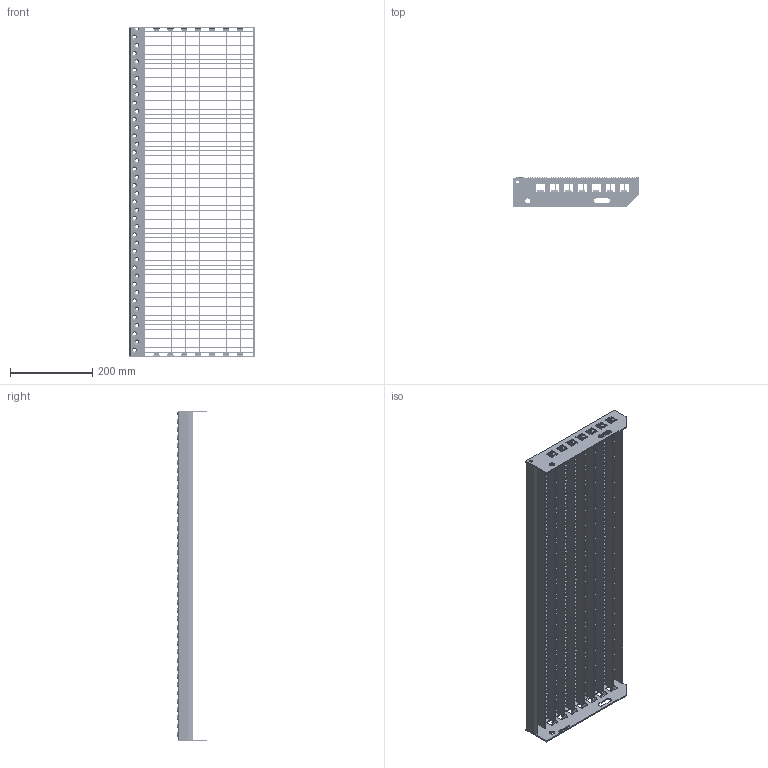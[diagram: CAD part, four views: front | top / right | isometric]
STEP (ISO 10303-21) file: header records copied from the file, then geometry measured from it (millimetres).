
FILE_DESCRIPTION(/* description */ ('','CAx-IF Rec.Pracs.---Representation and Presentation of Product Manufacturing Information (PMI)---3.8---2014-02-18'),/* implementation_level */ '2;1');
FILE_NAME(/* name */ 'C:\Users\phaverkotte\Desktop\Lager STEP\P-Stufen\PX42 230-33 11-2\PX42 230-33 11-2 800mm x 305mm.stp',/* time_stamp */ '2018-03-24T10:52:18+01:00',/* author */ ('phaverkotte'),/* organization */ (''),/* preprocessor_version */ 'ST-DEVELOPER v16.13',/* originating_system */ 'Autodesk Inventor 2018',/* authorisation */ '');
FILE_SCHEMA (('AP242_MANAGED_MODEL_BASED_3D_ENGINEERING_MIM_LF { 1 0 10303 442 1 1 4 }'));
Length unit declared in the file: millimetre
Products named in the file (8): Schodišťový stupeň přím
ý lisovaný; Seitenplatte ausgeklinkt links; Seitenplatte 240 ausgeklinkt extern rechts; Schod nášlap; P Rošt schodu; Querstab; P Nosný pás; Hinteres Flach
Assembly tree (84 placements, depth 3):
  Schodišťový stupeň přím
ý lisovaný
    Seitenplatte ausgeklinkt links
    Seitenplatte 240 ausgeklinkt extern rechts
    Schod nášlap
    P Rošt schodu
      Querstab  x71
      P Nosný pás  x8
      Hinteres Flach
Bounding box: 303.64 x 72.75 x 800 mm (x, y, z)
Volume: 922757.8 mm3; surface area: 1047560.6 mm2
Topology: 83 solids, 83 shells, 16845 faces, 49864 edges, 33202 vertices
Faces by surface type: plane 16505, cylinder 152, cone 120, torus 40, bspline 28
Full cylindrical faces by diameter (mm): 8 x2, 13 x2
Entity records: 41730 total; most frequent: CARTESIAN_POINT 11323, ORIENTED_EDGE 6094, DIRECTION 5949, EDGE_CURVE 3047, LINE 2479, VECTOR 2479, VERTEX_POINT 2071, AXIS2_PLACEMENT_3D 1735
